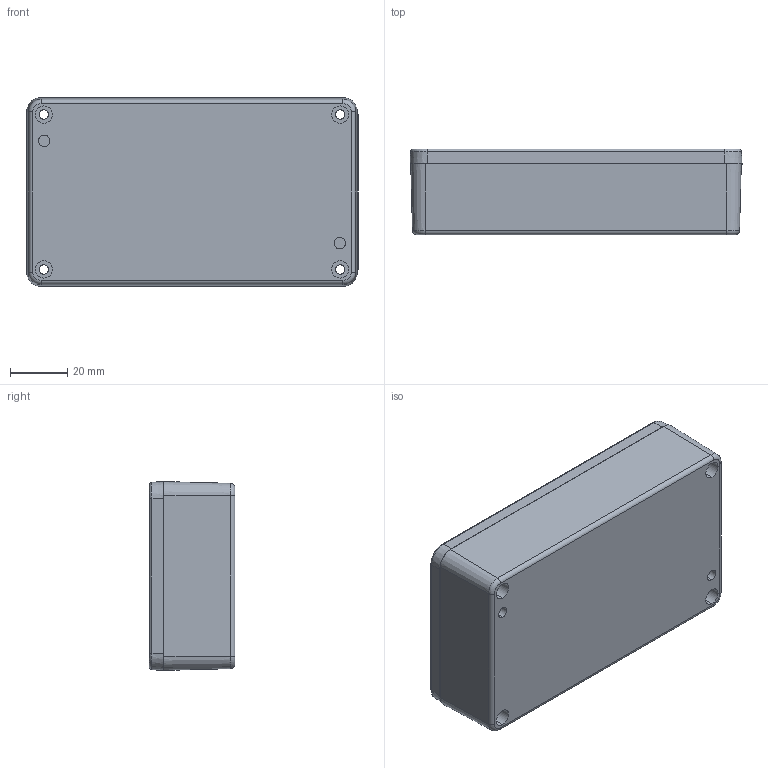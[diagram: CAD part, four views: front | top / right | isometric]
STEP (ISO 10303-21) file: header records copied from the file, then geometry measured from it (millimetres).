
FILE_DESCRIPTION (( 'STEP AP203' ), '1' );
FILE_NAME ('SE-309-0-0.STEP', '2020-05-20T12:46:35', ( '' ), ( '' ), 'SwSTEP 2.0', 'SolidWorks 2020', '' );
FILE_SCHEMA (( 'CONFIG_CONTROL_DESIGN' ));
Length unit declared in the file: millimetre
Products named in the file (3): SE-309-P-1; SE-309-0-0; SE-309-P-2
Assembly tree (2 placements, depth 2):
  SE-309-0-0
    SE-309-P-2
    SE-309-P-1
Bounding box: 115.7 x 29.8 x 65.8 mm (x, y, z)
Volume: 76913.2 mm3; surface area: 54224.5 mm2
Topology: 2 solids, 2 shells, 320 faces, 849 edges, 558 vertices
Faces by surface type: plane 147, cone 109, cylinder 56, torus 8
Entity records: 10360 total; most frequent: DIRECTION 1829, CARTESIAN_POINT 1738, ORIENTED_EDGE 1698, EDGE_CURVE 849, AXIS2_PLACEMENT_3D 657, VERTEX_POINT 558, VECTOR 515, LINE 515
